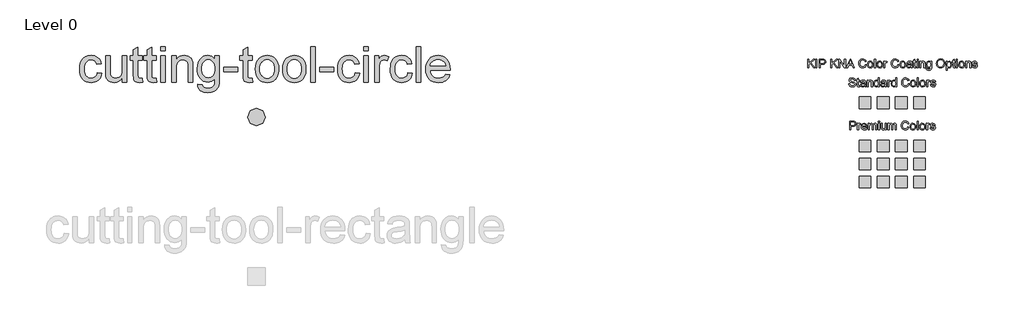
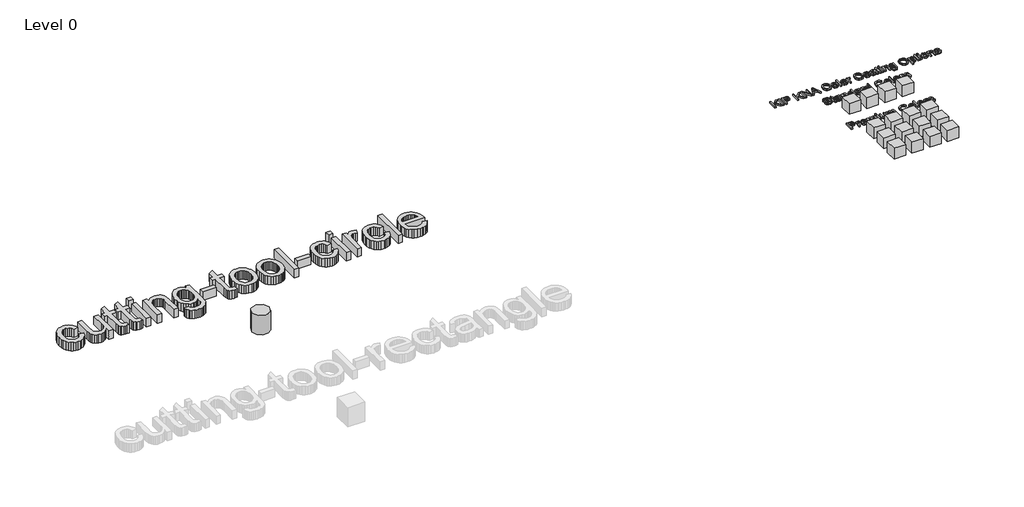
# One storey, part 3 of 3: 19 proxies.
"""IFC4 building model written with IfcOpenShell, lengths in millimetres."""

from ifc_helpers import new_model, si_unit, origin, origin_with_axes, place, context, project, spatial, polyline, outline, extrude, transform, mapped, element, save
from components import kna_colour_range_roof_only_kna_colour_range_roof_only_6b243e54, ks_colour_sample_ks_colour_sample_0243efec, kingspan_ks_cutting_tool_circle_cutting_tool_circle_f6fe257a

model = new_model("IFC4")

# Units and contexts
model_context = context("Model", 3, world=origin())
ifc_project = project(units=[si_unit("LENGTHUNIT", "METRE", prefix="MILLI")], contexts=[model_context])

# Site, building, storey
site = spatial("IfcSite", under=ifc_project)
building = spatial("IfcBuilding", under=site)
storey = spatial("IfcBuildingStorey", under=building, Name="Level 0", Elevation=0.0)

# Proxies
placement = place(None, origin())
element("IfcBuildingElementProxy", 1, Name="24\" Arial", ObjectType="24\" Arial", at=placement, inside=storey, context=model_context, shape_type="SweptSolid", body=[
    extrude(outline(polyline([(-418.5044384, 12987.2209072), (-342.3626649, 12977.7031855), (-350.6441981, 12941.7747156), (-363.5916457, 12909.9823649), (-381.2050076, 12882.3261336), (-403.4842839, 12858.8060216), (-429.4907148, 12840.0354757), (-458.2855408, 12826.6279429), (-489.8687618, 12818.5834233), (-524.2403778, 12815.9019167), (-566.9446476, 12819.6430134), (-605.2339587, 12830.8663034), (-639.1083109, 12849.5717867), (-668.5677044, 12875.7594633), (-692.4131292, 12908.9367168), (-709.4455755, 12948.6109307), (-719.6650432, 12994.782105), (-723.0715325, 13047.4502397), (-717.2530815, 13115.2082389), (-709.9800178, 13145.6993385), (-699.7977287, 13173.9318381), (-686.6365041, 13199.3387641), (-670.4266344, 13221.3531429), (-651.1681194, 13239.9749743), (-628.8609592, 13255.2042585), (-604.5136233, 13267.0456427), (-579.1345812, 13275.5037743), (-552.723833, 13280.5786532), (-525.2813786, 13282.2702795), (-491.4999729, 13279.946617), (-460.9438107, 13272.9756295), (-433.6128921, 13261.3573168), (-409.5072171, 13245.0916792), (-389.0357503, 13224.5505025), (-372.6074563, 13200.1055728), (-360.222335, 13171.75689), (-351.8803866, 13139.5044542), (-428.0221601, 13129.9867325), (-441.8340101, 13163.2058119), (-463.3418304, 13187.0187054), (-491.3559058, 13201.3510559), (-524.686521, 13206.128506), (-550.5581795, 13203.7769595), (-573.8923986, 13196.7223201), (-594.6891782, 13184.9645878), (-612.9485183, 13168.5037625), (-627.8153111, 13146.9587636), (-638.4344488, 13119.9485104), (-644.8059314, 13087.473003), (-646.929759, 13049.5322413), (-644.8524047, 13011.0198587), (-638.6203418, 12978.167918), (-628.2335703, 12950.9764191), (-613.6920903, 12929.4453622), (-595.7952415, 12913.0821307), (-575.342364, 12901.3941083), (-552.3334577, 12894.3812948), (-526.7685226, 12892.0436903), (-487.340617, 12897.8807305), (-470.2895814, 12905.1770308), (-455.013824, 12915.3918513), (-441.9408986, 12928.6367277), (-431.4983592, 12945.0231958), (-423.6862058, 12964.5512556), (-418.5044384, 12987.2209072)])), origin_with_axes(), (0.0, 0.0, 1.0), 152.4),
    extrude(outline(polyline([(9.7930376, 12825.4196384), (9.7930376, 12902.304984), (-17.7563052, 12864.5036421), (-49.8414373, 12837.5026836), (-86.4623587, 12821.3021084), (-127.6190693, 12815.9019167), (-164.7047231, 12819.694134), (-199.2250536, 12831.0707857), (-228.1871832, 12848.1729419), (-248.5982348, 12869.1416724), (-262.3357276, 12894.6090137), (-271.277181, 12925.2070018), (-275.7386131, 12995.9950568), (-275.7386131, 13272.7525578), (-199.5968396, 13272.7525578), (-199.5968396, 13031.8352276), (-198.4443029, 12983.6517615), (-194.9866931, 12954.20631), (-183.8888809, 12928.3114149), (-164.8720268, 12908.625346), (-139.2002033, 12896.1891042), (-108.1374827, 12892.0436903), (-75.2901893, 12896.2820507), (-44.5620761, 12908.997132), (-19.22486, 12929.0178083), (-2.5502577, 12955.1729537), (6.7072138, 12990.9945351), (9.7930376, 13040.0145197), (9.7930376, 13272.7525578), (85.9348111, 13272.7525578), (85.9348111, 12825.4196384), (9.7930376, 12825.4196384)])), origin_with_axes(), (0.0, 0.0, 1.0), 152.4),
    extrude(outline(polyline([(352.4310184, 12888.9206878), (361.9487401, 12823.1889224), (331.7968952, 12817.7236682), (304.9911244, 12815.9019167), (268.4445602, 12819.0620978), (241.1926462, 12828.5426409), (221.9341312, 12843.1538308), (209.3677643, 12861.7059524), (202.4525446, 12893.5680129), (200.1474714, 12948.1090196), (200.1474714, 13196.6107843), (143.0411413, 13196.6107843), (143.0411413, 13272.7525578), (200.1474714, 13272.7525578), (200.1474714, 13381.4627853), (276.2892449, 13426.2258201), (276.2892449, 13272.7525578), (352.4310184, 13272.7525578), (352.4310184, 13196.6107843), (276.2892449, 13196.6107843), (276.2892449, 12950.3397356), (280.3045338, 12911.0791336), (293.3170439, 12897.1743371), (304.3033203, 12893.326352), (319.2677069, 12892.0436903), (352.4310184, 12888.9206878)])), origin_with_axes(), (0.0, 0.0, 1.0), 152.4),
    extrude(outline(polyline([(590.3740607, 12888.9206878), (599.8917824, 12823.1889224), (569.7399375, 12817.7236682), (542.9341666, 12815.9019167), (506.3876025, 12819.0620978), (479.1356884, 12828.5426409), (459.8771735, 12843.1538308), (447.3108065, 12861.7059524), (440.3955869, 12893.5680129), (438.0905136, 12948.1090196), (438.0905136, 13196.6107843), (380.9841835, 13196.6107843), (380.9841835, 13272.7525578), (438.0905136, 13272.7525578), (438.0905136, 13381.4627853), (514.2322872, 13426.2258201), (514.2322872, 13272.7525578), (590.3740607, 13272.7525578), (590.3740607, 13196.6107843), (514.2322872, 13196.6107843), (514.2322872, 12950.3397356), (518.247576, 12911.0791336), (531.2600861, 12897.1743371), (542.2463625, 12893.326352), (557.2107492, 12892.0436903), (590.3740607, 12888.9206878)])), origin_with_axes(), (0.0, 0.0, 1.0), 152.4),
    extrude(outline(polyline([(666.5158342, 13358.4120531), (666.5158342, 13434.5538266), (742.6576077, 13434.5538266), (742.6576077, 13358.4120531), (666.5158342, 13358.4120531)])), origin_with_axes(), (0.0, 0.0, 1.0), 152.4),
    extrude(outline(polyline([(666.5158342, 12825.4196384), (666.5158342, 13272.7525578), (742.6576077, 13272.7525578), (742.6576077, 12825.4196384), (666.5158342, 12825.4196384)])), origin_with_axes(), (0.0, 0.0, 1.0), 152.4),
    extrude(outline(polyline([(856.870268, 12825.4196384), (856.870268, 13272.7525578), (933.0120415, 13272.7525578), (933.0120415, 13210.2925093), (959.4646157, 13241.7827838), (991.2337297, 13264.275837), (1028.3193835, 13277.7716689), (1070.7215772, 13282.2702795), (1108.2533743, 13278.645366), (1142.6249903, 13267.7706254), (1171.2896912, 13251.0030766), (1191.7007427, 13229.6997386), (1205.5497714, 13203.9163793), (1214.5284034, 13173.7087665), (1218.5436922, 13100.0951378), (1218.5436922, 12825.4196384), (1142.4019187, 12825.4196384), (1142.4019187, 13089.8338441), (1140.2083813, 13129.2059819), (1133.627769, 13157.201468), (1121.488956, 13177.2593228), (1102.6208163, 13192.8185671), (1078.4361368, 13202.8010213), (1050.3477042, 13206.128506), (1027.2272621, 13204.2602814), (1005.7519731, 13198.6556074), (985.9218371, 13189.314484), (967.7368542, 13176.2369113), (952.5447487, 13157.9357453), (941.6932447, 13132.9238419), (935.1823423, 13101.2012012), (933.0120415, 13062.7678231), (933.0120415, 12825.4196384), (856.870268, 12825.4196384)])), origin_with_axes(), (0.0, 0.0, 1.0), 152.4),
    extrude(outline(polyline([(1304.2031874, 12787.3487517), (1380.3449609, 12777.83103), (1388.7473246, 12754.0367258), (1405.0315516, 12737.6781416), (1437.0423265, 12724.9630603), (1478.942609, 12720.7246999), (1523.6312867, 12725.5207393), (1541.6814971, 12731.5157886), (1556.8689554, 12739.9088576), (1579.9196876, 12762.9595898), (1594.0475557, 12793.7434709), (1598.1743804, 12826.4978178), (1599.2525598, 12882.5259686), (1573.9153436, 12857.5419491), (1545.6410181, 12839.696221), (1514.4295831, 12828.9887841), (1480.2810387, 12825.4196384), (1438.5341178, 12829.574347), (1401.778424, 12842.0384728), (1370.0139573, 12862.8120157), (1343.2407178, 12891.8949759), (1321.997795, 12926.7870923), (1306.8242787, 12964.9881042), (1297.720169, 13006.4980114), (1294.6854657, 13051.3168142), (1300.1321307, 13112.7916298), (1316.4721255, 13169.3216917), (1328.5830546, 13194.8122695), (1343.129182, 13217.2263182), (1360.1105077, 13236.5638377), (1379.5270317, 13252.8248281), (1401.0673833, 13265.7072131), (1424.4201916, 13274.9089167), (1449.5854567, 13280.4299388), (1476.5631786, 13282.2702795), (1512.1709831, 13278.1062763), (1544.4884815, 13265.6142666), (1573.5156737, 13244.7942504), (1599.2525598, 13215.6462277), (1599.2525598, 13272.7525578), (1675.3943333, 13272.7525578), (1675.3943333, 12886.5412574), (1670.1893293, 12797.3683845), (1663.6830742, 12764.2004256), (1654.5743171, 12738.6447852), (1642.6446337, 12718.0338987), (1627.6755997, 12699.7002014), (1609.6672152, 12683.6436933), (1588.6194801, 12669.8643746), (1564.7461713, 12658.803741), (1538.2610659, 12650.9032884), (1509.1641638, 12646.1630168), (1477.455465, 12644.5829263), (1440.1513869, 12646.808995), (1406.6116421, 12653.4872011), (1376.8362305, 12664.6175446), (1350.8251522, 12680.2000255), (1329.8145957, 12700.253233), (1315.0407494, 12724.7957566), (1306.5036133, 12753.8275961), (1304.2031874, 12787.3487517)]), holes=[polyline([(1370.8272392, 13056.5218182), (1372.8581203, 13018.873838), (1378.9507634, 12986.6818175), (1389.1051686, 12959.9457565), (1403.3213359, 12938.6656551), (1420.6047378, 12922.4325487), (1439.9608466, 12910.8374727), (1461.3896624, 12903.8804272), (1484.8911851, 12901.561412), (1508.1603416, 12903.8664852), (1529.4869162, 12910.7817048), (1548.870909, 12922.3070709), (1566.3123199, 12938.4425835), (1580.7236748, 12959.5135552), (1591.0174998, 12985.8452989), (1597.1937948, 13017.4378146), (1599.2525598, 13054.2911022), (1597.1333796, 13089.6061252), (1590.7758389, 13120.3017071), (1580.1799378, 13146.3778479), (1565.3456763, 13167.8345477), (1547.527832, 13184.5881544), (1527.9811829, 13196.5550164), (1506.7057289, 13203.7351336), (1483.7014699, 13206.128506), (1461.0829389, 13203.7723122), (1440.2210968, 13196.7037308), (1421.1159435, 13184.9227618), (1403.7674791, 13168.4294053), (1389.3561242, 13147.2980183), (1379.0622992, 13121.6029581), (1372.8860042, 13091.3442248), (1370.8272392, 13056.5218182)])]), origin_with_axes(), (0.0, 0.0, 1.0), 152.4),
    extrude(outline(polyline([(1751.5361068, 13006.2563505), (1751.5361068, 13082.3981241), (1989.4791491, 13082.3981241), (1989.4791491, 13006.2563505), (1751.5361068, 13006.2563505)])), origin_with_axes(), (0.0, 0.0, 1.0), 152.4),
    extrude(outline(polyline([(2236.939913, 12888.9206878), (2246.4576347, 12823.1889224), (2216.3057898, 12817.7236682), (2189.5000189, 12815.9019167), (2152.9534548, 12819.0620978), (2125.7015407, 12828.5426409), (2106.4430258, 12843.1538308), (2093.8766588, 12861.7059524), (2086.9614392, 12893.5680129), (2084.656366, 12948.1090196), (2084.656366, 13196.6107843), (2027.5500358, 13196.6107843), (2027.5500358, 13272.7525578), (2084.656366, 13272.7525578), (2084.656366, 13381.4627853), (2160.7981395, 13426.2258201), (2160.7981395, 13272.7525578), (2236.939913, 13272.7525578), (2236.939913, 13196.6107843), (2160.7981395, 13196.6107843), (2160.7981395, 12950.3397356), (2164.8134283, 12911.0791336), (2177.8259384, 12897.1743371), (2188.8122148, 12893.326352), (2203.7766015, 12892.0436903), (2236.939913, 12888.9206878)])), origin_with_axes(), (0.0, 0.0, 1.0), 152.4),
    extrude(outline(polyline([(2294.0462431, 13049.0860981), (2298.1637731, 13107.0196521), (2310.5163631, 13156.9412178), (2331.104013, 13198.850795), (2359.9267229, 13232.7483839), (2388.9446205, 13254.4142132), (2420.9739847, 13269.8898056), (2456.0148156, 13279.1751611), (2494.067113, 13282.2702795), (2536.0742841, 13278.5012989), (2574.0568717, 13267.1943571), (2608.0148758, 13248.349454), (2637.9482964, 13221.9665898), (2662.3792841, 13188.9380507), (2679.8299897, 13150.1561232), (2690.300413, 13105.6208073), (2693.7905541, 13055.332103), (2692.2476422, 13014.5750624), (2687.6189064, 12978.4095789), (2679.9043469, 12946.8356525), (2669.1039635, 12919.8532833), (2655.3525287, 12896.5469482), (2638.7848149, 12876.0011242), (2619.4008221, 12858.2158113), (2597.2005504, 12843.1910094), (2573.0484021, 12831.2520314), (2547.8087798, 12822.7241899), (2521.4816834, 12817.607485), (2494.067113, 12815.9019167), (2451.446495, 12819.6569554), (2413.1107107, 12830.9220713), (2379.0597602, 12849.6972645), (2349.2936432, 12875.9825349), (2325.1229057, 12909.3317394), (2307.8580932, 12949.2987348), (2297.4992056, 12995.883521), (2294.0462431, 13049.0860981)]), holes=[polyline([(2370.1880166, 13049.2348125), (2372.3908487, 13012.3025204), (2378.9993449, 12980.3242768), (2390.0135053, 12953.3000817), (2405.4333298, 12931.229935), (2424.1899337, 12914.0859529), (2445.2144321, 12901.8402515), (2468.5068253, 12894.4928306), (2494.067113, 12892.0436903), (2519.4972756, 12894.5067725), (2542.6967223, 12901.8960194), (2563.6654529, 12914.2114307), (2582.4034674, 12931.4530066), (2597.8232919, 12953.7415775), (2608.8374523, 12981.1979739), (2615.4459485, 13013.8221957), (2617.6487806, 13051.614243), (2615.4320065, 13087.3754092), (2608.7816844, 13118.5171343), (2597.6978142, 13145.0394183), (2582.1803958, 13166.9422613), (2563.3726714, 13184.0862433), (2542.4178828, 13196.3319448), (2519.31603, 13203.6793657), (2494.067113, 13206.128506), (2468.5068253, 13203.6886604), (2445.2144321, 13196.3691234), (2424.1899337, 13184.1698952), (2405.4333298, 13167.0909757), (2390.0135053, 13145.0858916), (2378.9993449, 13118.1081697), (2372.3908487, 13086.15781), (2370.1880166, 13049.2348125)])]), origin_with_axes(), (0.0, 0.0, 1.0), 152.4),
    extrude(outline(polyline([(2760.4146059, 13049.0860981), (2764.5321359, 13107.0196521), (2776.8847259, 13156.9412178), (2797.4723758, 13198.850795), (2826.2950857, 13232.7483839), (2855.3129833, 13254.4142132), (2887.3423475, 13269.8898056), (2922.3831783, 13279.1751611), (2960.4354758, 13282.2702795), (3002.4426469, 13278.5012989), (3040.4252345, 13267.1943571), (3074.3832385, 13248.349454), (3104.3166592, 13221.9665898), (3128.7476469, 13188.9380507), (3146.1983525, 13150.1561232), (3156.6687758, 13105.6208073), (3160.1589169, 13055.332103), (3158.616005, 13014.5750624), (3153.9872692, 12978.4095789), (3146.2727097, 12946.8356525), (3135.4723262, 12919.8532833), (3121.7208914, 12896.5469482), (3105.1531777, 12876.0011242), (3085.7691849, 12858.2158113), (3063.5689132, 12843.1910094), (3039.4167649, 12831.2520314), (3014.1771426, 12822.7241899), (2987.8500462, 12817.607485), (2960.4354758, 12815.9019167), (2917.8148578, 12819.6569554), (2879.4790735, 12830.9220713), (2845.4281229, 12849.6972645), (2815.662006, 12875.9825349), (2791.4912685, 12909.3317394), (2774.2264559, 12949.2987348), (2763.8675684, 12995.883521), (2760.4146059, 13049.0860981)]), holes=[polyline([(2836.5563794, 13049.2348125), (2838.7592115, 13012.3025204), (2845.3677077, 12980.3242768), (2856.3818681, 12953.3000817), (2871.8016926, 12931.229935), (2890.5582964, 12914.0859529), (2911.5827949, 12901.8402515), (2934.8751881, 12894.4928306), (2960.4354758, 12892.0436903), (2985.8656384, 12894.5067725), (3009.0650851, 12901.8960194), (3030.0338157, 12914.2114307), (3048.7718302, 12931.4530066), (3064.1916547, 12953.7415775), (3075.2058151, 12981.1979739), (3081.8143113, 13013.8221957), (3084.0171434, 13051.614243), (3081.8003693, 13087.3754092), (3075.1500472, 13118.5171343), (3064.066177, 13145.0394183), (3048.5487586, 13166.9422613), (3029.7410342, 13184.0862433), (3008.7862456, 13196.3319448), (2985.6843928, 13203.6793657), (2960.4354758, 13206.128506), (2934.8751881, 13203.6886604), (2911.5827949, 13196.3691234), (2890.5582964, 13184.1698952), (2871.8016926, 13167.0909757), (2856.3818681, 13145.0858916), (2845.3677077, 13118.1081697), (2838.7592115, 13086.15781), (2836.5563794, 13049.2348125)])]), origin_with_axes(), (0.0, 0.0, 1.0), 152.4),
    extrude(outline(polyline([(3245.8184121, 12825.4196384), (3245.8184121, 13434.5538266), (3321.9601856, 13434.5538266), (3321.9601856, 12825.4196384), (3245.8184121, 12825.4196384)])), origin_with_axes(), (0.0, 0.0, 1.0), 152.4),
    extrude(outline(polyline([(3398.1019591, 13006.2563505), (3398.1019591, 13082.3981241), (3636.0450014, 13082.3981241), (3636.0450014, 13006.2563505), (3398.1019591, 13006.2563505)])), origin_with_axes(), (0.0, 0.0, 1.0), 152.4),
    extrude(outline(polyline([(4007.2361473, 12987.2209072), (4083.3779208, 12977.7031855), (4075.0963875, 12941.7747156), (4062.14894, 12909.9823649), (4044.5355781, 12882.3261336), (4022.2563018, 12858.8060216), (3996.2498709, 12840.0354757), (3967.4550449, 12826.6279429), (3935.8718239, 12818.5834233), (3901.5002079, 12815.9019167), (3858.795938, 12819.6430134), (3820.506627, 12830.8663034), (3786.6322748, 12849.5717867), (3757.1728813, 12875.7594633), (3733.3274565, 12908.9367168), (3716.2950102, 12948.6109307), (3706.0755424, 12994.782105), (3702.6690532, 13047.4502397), (3708.4875041, 13115.2082389), (3715.7605678, 13145.6993385), (3725.942857, 13173.9318381), (3739.1040815, 13199.3387641), (3755.3139513, 13221.3531429), (3774.5724663, 13239.9749743), (3796.8796265, 13255.2042585), (3821.2269624, 13267.0456427), (3846.6060044, 13275.5037743), (3873.0167527, 13280.5786532), (3900.4592071, 13282.2702795), (3934.2406128, 13279.946617), (3964.796775, 13272.9756295), (3992.1276935, 13261.3573168), (4016.2333685, 13245.0916792), (4036.7048354, 13224.5505025), (4053.1331294, 13200.1055728), (4065.5182506, 13171.75689), (4073.8601991, 13139.5044542), (3997.7184256, 13129.9867325), (3983.9065755, 13163.2058119), (3962.3987552, 13187.0187054), (3934.3846799, 13201.3510559), (3901.0540647, 13206.128506), (3875.1824061, 13203.7769595), (3851.8481871, 13196.7223201), (3831.0514075, 13184.9645878), (3812.7920674, 13168.5037625), (3797.9252746, 13146.9587636), (3787.3061369, 13119.9485104), (3780.9346543, 13087.473003), (3778.8108267, 13049.5322413), (3780.888181, 13011.0198587), (3787.1202439, 12978.167918), (3797.5070154, 12950.9764191), (3812.0484954, 12929.4453622), (3829.9453442, 12913.0821307), (3850.3982217, 12901.3941083), (3873.407128, 12894.3812948), (3898.972063, 12892.0436903), (3938.3999687, 12897.8807305), (3955.4510043, 12905.1770308), (3970.7267617, 12915.3918513), (3983.7996871, 12928.6367277), (3994.2422264, 12945.0231958), (4002.0543798, 12964.5512556), (4007.2361473, 12987.2209072)])), origin_with_axes(), (0.0, 0.0, 1.0), 152.4),
    extrude(outline(polyline([(4150.0019726, 13358.4120531), (4150.0019726, 13434.5538266), (4226.1437461, 13434.5538266), (4226.1437461, 13358.4120531), (4150.0019726, 13358.4120531)])), origin_with_axes(), (0.0, 0.0, 1.0), 152.4),
    extrude(outline(polyline([(4150.0019726, 12825.4196384), (4150.0019726, 13272.7525578), (4226.1437461, 13272.7525578), (4226.1437461, 12825.4196384), (4150.0019726, 12825.4196384)])), origin_with_axes(), (0.0, 0.0, 1.0), 152.4),
    extrude(outline(polyline([(4340.3564064, 12825.4196384), (4340.3564064, 13272.7525578), (4406.9804582, 13272.7525578), (4406.9804582, 13206.5746492), (4431.5926917, 13244.9429648), (4454.2716379, 13267.5475538), (4477.0249413, 13278.5895981), (4501.8602463, 13282.2702795), (4539.7824187, 13276.3960607), (4578.2994486, 13258.7734041), (4552.869286, 13190.5134939), (4526.1006937, 13202.224753), (4499.3321015, 13206.128506), (4476.5973874, 13202.3734674), (4456.2792823, 13191.1083515), (4439.8649302, 13173.1882661), (4428.8414752, 13149.4683191), (4419.5840037, 13106.9360003), (4416.4981799, 13060.5371071), (4416.4981799, 12825.4196384), (4340.3564064, 12825.4196384)])), origin_with_axes(), (0.0, 0.0, 1.0), 152.4),
    extrude(outline(polyline([(4911.4197078, 12987.2209072), (4987.5614813, 12977.7031855), (4979.2799481, 12941.7747156), (4966.3325005, 12909.9823649), (4948.7191386, 12882.3261336), (4926.4398623, 12858.8060216), (4900.4334314, 12840.0354757), (4871.6386054, 12826.6279429), (4840.0553844, 12818.5834233), (4805.6837684, 12815.9019167), (4762.9794986, 12819.6430134), (4724.6901875, 12830.8663034), (4690.8158353, 12849.5717867), (4661.3564418, 12875.7594633), (4637.511017, 12908.9367168), (4620.4785707, 12948.6109307), (4610.259103, 12994.782105), (4606.8526137, 13047.4502397), (4612.6710647, 13115.2082389), (4619.9441284, 13145.6993385), (4630.1264175, 13173.9318381), (4643.2876421, 13199.3387641), (4659.4975118, 13221.3531429), (4678.7560268, 13239.9749743), (4701.063187, 13255.2042585), (4725.4105229, 13267.0456427), (4750.789565, 13275.5037743), (4777.2003132, 13280.5786532), (4804.6427676, 13282.2702795), (4838.4241733, 13279.946617), (4868.9803355, 13272.9756295), (4896.3112541, 13261.3573168), (4920.4169291, 13245.0916792), (4940.8883959, 13224.5505025), (4957.3166899, 13200.1055728), (4969.7018111, 13171.75689), (4978.0437596, 13139.5044542), (4901.9019861, 13129.9867325), (4888.0901361, 13163.2058119), (4866.5823158, 13187.0187054), (4838.5682404, 13201.3510559), (4805.2376252, 13206.128506), (4779.3659667, 13203.7769595), (4756.0317476, 13196.7223201), (4735.234968, 13184.9645878), (4716.9756279, 13168.5037625), (4702.1088351, 13146.9587636), (4691.4896974, 13119.9485104), (4685.1182148, 13087.473003), (4682.9943872, 13049.5322413), (4685.0717415, 13011.0198587), (4691.3038044, 12978.167918), (4701.6905759, 12950.9764191), (4716.2320559, 12929.4453622), (4734.1289047, 12913.0821307), (4754.5817822, 12901.3941083), (4777.5906885, 12894.3812948), (4803.1556236, 12892.0436903), (4842.5835292, 12897.8807305), (4859.6345648, 12905.1770308), (4874.9103222, 12915.3918513), (4887.9832476, 12928.6367277), (4898.425787, 12945.0231958), (4906.2379404, 12964.5512556), (4911.4197078, 12987.2209072)])), origin_with_axes(), (0.0, 0.0, 1.0), 152.4),
    extrude(outline(polyline([(5054.1855331, 12825.4196384), (5054.1855331, 13434.5538266), (5130.3273066, 13434.5538266), (5130.3273066, 12825.4196384), (5054.1855331, 12825.4196384)])), origin_with_axes(), (0.0, 0.0, 1.0), 152.4),
    extrude(outline(polyline([(5557.7324963, 12958.6677421), (5632.3871258, 12949.1500204), (5620.9407642, 12919.2491311), (5605.4884084, 12892.8987981), (5586.0300585, 12870.0990214), (5562.5657143, 12850.8498011), (5535.3370369, 12835.5601017), (5504.5856871, 12824.6388878), (5470.3116649, 12818.0861595), (5432.5149703, 12815.9019167), (5385.2702639, 12819.6708974), (5343.1747936, 12830.9778392), (5306.2285595, 12849.8227422), (5274.4315616, 12876.2056065), (5248.8619792, 12909.3921547), (5230.5979918, 12948.6481093), (5219.6395993, 12993.9734704), (5215.9868018, 13045.3682381), (5219.6767779, 13098.5057527), (5230.7467062, 13145.3414944), (5249.1965866, 13185.8754635), (5275.0264192, 13220.1076598), (5306.7397653, 13247.3038059), (5342.8401862, 13266.7296246), (5383.327682, 13278.3851158), (5428.2022526, 13282.2702795), (5471.6315052, 13278.3944105), (5510.9060491, 13266.7668032), (5546.0258845, 13247.3874578), (5576.9910112, 13220.2563742), (5602.2678122, 13186.0985351), (5620.32267, 13145.6389233), (5631.1555846, 13098.8775387), (5634.7665562, 13045.8143813), (5634.320413, 13025.2917939), (5292.1285754, 13025.2917939), (5296.5388868, 12994.9075828), (5305.3083892, 12968.2969996), (5318.4370824, 12945.4600443), (5335.9249666, 12926.396717), (5356.805398, 12911.3672678), (5380.1117331, 12900.6319469), (5405.8439719, 12894.1907544), (5434.0021143, 12892.0436903), (5474.5267887, 12896.0218005), (5508.6567438, 12907.9561312), (5536.3919797, 12928.5902544), (5557.7324963, 12958.6677421)]), holes=[polyline([(5292.1285754, 13101.4335674), (5558.6247827, 13101.4335674), (5548.3263104, 13141.660813), (5539.4685088, 13157.4803075), (5528.1383304, 13170.4370497), (5507.3740821, 13186.0520618), (5483.7470816, 13197.2056419), (5457.2573288, 13203.89779), (5427.9048238, 13206.128506), (5401.1315843, 13204.3485805), (5376.5797661, 13199.0088041), (5354.2493692, 13190.1091766), (5334.1403938, 13177.6496982), (5317.2659565, 13162.206637), (5304.6391744, 13144.3562615), (5296.2600473, 13124.0985717), (5292.1285754, 13101.4335674)])]), origin_with_axes(), (0.0, 0.0, 1.0), 152.4),
])
kna_colour_range_roof_only_kna_colour_range_roof_only_shape = kna_colour_range_roof_only_kna_colour_range_roof_only_6b243e54(model_context)
element("IfcBuildingElementProxy", 2, Name="KNA_Colour Range - Roof Only : KNA_Colour Range - Roof Only", ObjectType="KNA_Colour Range - Roof Only : KNA_Colour Range - Roof Only", at=placement, inside=storey, context=model_context, shape_type="MappedRepresentation", body=[
    mapped(kna_colour_range_roof_only_kna_colour_range_roof_only_shape, transform((13221.5853815, 10491.2290821, 0.0), x_axis=(1.0, 0.0, 0.0), y_axis=(0.0, 1.0, 0.0), z_axis=(0.0, 0.0, 1.0))),
])
ks_colour_sample_ks_colour_sample_shape = ks_colour_sample_ks_colour_sample_0243efec(model_context)
element("IfcBuildingElementProxy", 3, Name="KS_Colour Sample : KS_Colour Sample", ObjectType="KS_Colour Sample : KS_Colour Sample", at=placement, inside=storey, context=model_context, shape_type="MappedRepresentation", body=[
    mapped(ks_colour_sample_ks_colour_sample_shape, transform((12756.5853815, 12469.7096271, 0.0), x_axis=(1.0, 0.0, 0.0), y_axis=(0.0, 1.0, 0.0), z_axis=(0.0, 0.0, 1.0))),
])
element("IfcBuildingElementProxy", 4, Name="KS_Colour Sample : KS_Colour Sample", ObjectType="KS_Colour Sample : KS_Colour Sample", at=placement, inside=storey, context=model_context, shape_type="MappedRepresentation", body=[
    mapped(ks_colour_sample_ks_colour_sample_shape, transform((13066.5853815, 12469.7096271, 0.0), x_axis=(1.0, 0.0, 0.0), y_axis=(0.0, 1.0, 0.0), z_axis=(0.0, 0.0, 1.0))),
])
element("IfcBuildingElementProxy", 5, Name="KS_Colour Sample : KS_Colour Sample", ObjectType="KS_Colour Sample : KS_Colour Sample", at=placement, inside=storey, context=model_context, shape_type="MappedRepresentation", body=[
    mapped(ks_colour_sample_ks_colour_sample_shape, transform((13376.5853815, 12469.7096271, 0.0), x_axis=(1.0, 0.0, 0.0), y_axis=(0.0, 1.0, 0.0), z_axis=(0.0, 0.0, 1.0))),
])
element("IfcBuildingElementProxy", 6, Name="KS_Colour Sample : KS_Colour Sample", ObjectType="KS_Colour Sample : KS_Colour Sample", at=placement, inside=storey, context=model_context, shape_type="MappedRepresentation", body=[
    mapped(ks_colour_sample_ks_colour_sample_shape, transform((13686.5853815, 12469.7096271, 0.0), x_axis=(1.0, 0.0, 0.0), y_axis=(0.0, 1.0, 0.0), z_axis=(0.0, 0.0, 1.0))),
])
element("IfcBuildingElementProxy", 7, Name="KS_Colour Sample : KS_Colour Sample", ObjectType="KS_Colour Sample : KS_Colour Sample", at=placement, inside=storey, context=model_context, shape_type="MappedRepresentation", body=[
    mapped(ks_colour_sample_ks_colour_sample_shape, transform((12756.5853815, 11729.7096271, 0.0), x_axis=(1.0, 0.0, 0.0), y_axis=(0.0, 1.0, 0.0), z_axis=(0.0, 0.0, 1.0))),
])
element("IfcBuildingElementProxy", 8, Name="KS_Colour Sample : KS_Colour Sample", ObjectType="KS_Colour Sample : KS_Colour Sample", at=placement, inside=storey, context=model_context, shape_type="MappedRepresentation", body=[
    mapped(ks_colour_sample_ks_colour_sample_shape, transform((13066.5853815, 11729.7096271, 0.0), x_axis=(1.0, 0.0, 0.0), y_axis=(0.0, 1.0, 0.0), z_axis=(0.0, 0.0, 1.0))),
])
element("IfcBuildingElementProxy", 9, Name="KS_Colour Sample : KS_Colour Sample", ObjectType="KS_Colour Sample : KS_Colour Sample", at=placement, inside=storey, context=model_context, shape_type="MappedRepresentation", body=[
    mapped(ks_colour_sample_ks_colour_sample_shape, transform((13376.5853815, 11729.7096271, 0.0), x_axis=(1.0, 0.0, 0.0), y_axis=(0.0, 1.0, 0.0), z_axis=(0.0, 0.0, 1.0))),
])
element("IfcBuildingElementProxy", 10, Name="KS_Colour Sample : KS_Colour Sample", ObjectType="KS_Colour Sample : KS_Colour Sample", at=placement, inside=storey, context=model_context, shape_type="MappedRepresentation", body=[
    mapped(ks_colour_sample_ks_colour_sample_shape, transform((13686.5853815, 11729.7096271, 0.0), x_axis=(1.0, 0.0, 0.0), y_axis=(0.0, 1.0, 0.0), z_axis=(0.0, 0.0, 1.0))),
])
element("IfcBuildingElementProxy", 11, Name="KS_Colour Sample : KS_Colour Sample", ObjectType="KS_Colour Sample : KS_Colour Sample", at=placement, inside=storey, context=model_context, shape_type="MappedRepresentation", body=[
    mapped(ks_colour_sample_ks_colour_sample_shape, transform((12756.5853815, 11419.7096271, 0.0), x_axis=(1.0, 0.0, 0.0), y_axis=(0.0, 1.0, 0.0), z_axis=(0.0, 0.0, 1.0))),
])
element("IfcBuildingElementProxy", 12, Name="KS_Colour Sample : KS_Colour Sample", ObjectType="KS_Colour Sample : KS_Colour Sample", at=placement, inside=storey, context=model_context, shape_type="MappedRepresentation", body=[
    mapped(ks_colour_sample_ks_colour_sample_shape, transform((13066.5853815, 11419.7096271, 0.0), x_axis=(1.0, 0.0, 0.0), y_axis=(0.0, 1.0, 0.0), z_axis=(0.0, 0.0, 1.0))),
])
element("IfcBuildingElementProxy", 13, Name="KS_Colour Sample : KS_Colour Sample", ObjectType="KS_Colour Sample : KS_Colour Sample", at=placement, inside=storey, context=model_context, shape_type="MappedRepresentation", body=[
    mapped(ks_colour_sample_ks_colour_sample_shape, transform((13376.5853815, 11419.7096271, 0.0), x_axis=(1.0, 0.0, 0.0), y_axis=(0.0, 1.0, 0.0), z_axis=(0.0, 0.0, 1.0))),
])
element("IfcBuildingElementProxy", 14, Name="KS_Colour Sample : KS_Colour Sample", ObjectType="KS_Colour Sample : KS_Colour Sample", at=placement, inside=storey, context=model_context, shape_type="MappedRepresentation", body=[
    mapped(ks_colour_sample_ks_colour_sample_shape, transform((13686.5853815, 11419.7096271, 0.0), x_axis=(1.0, 0.0, 0.0), y_axis=(0.0, 1.0, 0.0), z_axis=(0.0, 0.0, 1.0))),
])
element("IfcBuildingElementProxy", 15, Name="KS_Colour Sample : KS_Colour Sample", ObjectType="KS_Colour Sample : KS_Colour Sample", at=placement, inside=storey, context=model_context, shape_type="MappedRepresentation", body=[
    mapped(ks_colour_sample_ks_colour_sample_shape, transform((12756.5853815, 11109.7096271, 0.0), x_axis=(1.0, 0.0, 0.0), y_axis=(0.0, 1.0, 0.0), z_axis=(0.0, 0.0, 1.0))),
])
element("IfcBuildingElementProxy", 16, Name="KS_Colour Sample : KS_Colour Sample", ObjectType="KS_Colour Sample : KS_Colour Sample", at=placement, inside=storey, context=model_context, shape_type="MappedRepresentation", body=[
    mapped(ks_colour_sample_ks_colour_sample_shape, transform((13066.5853815, 11109.7096271, 0.0), x_axis=(1.0, 0.0, 0.0), y_axis=(0.0, 1.0, 0.0), z_axis=(0.0, 0.0, 1.0))),
])
element("IfcBuildingElementProxy", 17, Name="KS_Colour Sample : KS_Colour Sample", ObjectType="KS_Colour Sample : KS_Colour Sample", at=placement, inside=storey, context=model_context, shape_type="MappedRepresentation", body=[
    mapped(ks_colour_sample_ks_colour_sample_shape, transform((13376.5853815, 11109.7096271, 0.0), x_axis=(1.0, 0.0, 0.0), y_axis=(0.0, 1.0, 0.0), z_axis=(0.0, 0.0, 1.0))),
])
element("IfcBuildingElementProxy", 18, Name="KS_Colour Sample : KS_Colour Sample", ObjectType="KS_Colour Sample : KS_Colour Sample", at=placement, inside=storey, context=model_context, shape_type="MappedRepresentation", body=[
    mapped(ks_colour_sample_ks_colour_sample_shape, transform((13686.5853815, 11109.7096271, 0.0), x_axis=(1.0, 0.0, 0.0), y_axis=(0.0, 1.0, 0.0), z_axis=(0.0, 0.0, 1.0))),
])
kingspan_ks_cutting_tool_circle_cutting_tool_circle_shape = kingspan_ks_cutting_tool_circle_cutting_tool_circle_f6fe257a(model_context)
element("IfcBuildingElementProxy", 19, Name="kingspan-ks-cutting-tool-circle : cutting-tool-circle", ObjectType="kingspan-ks-cutting-tool-circle : cutting-tool-circle", at=placement, inside=storey, context=model_context, shape_type="MappedRepresentation", body=[
    mapped(kingspan_ks_cutting_tool_circle_cutting_tool_circle_shape, transform((2312.2835798, 12224.8544434, 0.0), x_axis=(1.0, 0.0, 0.0), y_axis=(0.0, 1.0, 0.0), z_axis=(0.0, 0.0, 1.0))),
])

save(model, "model.ifc")
